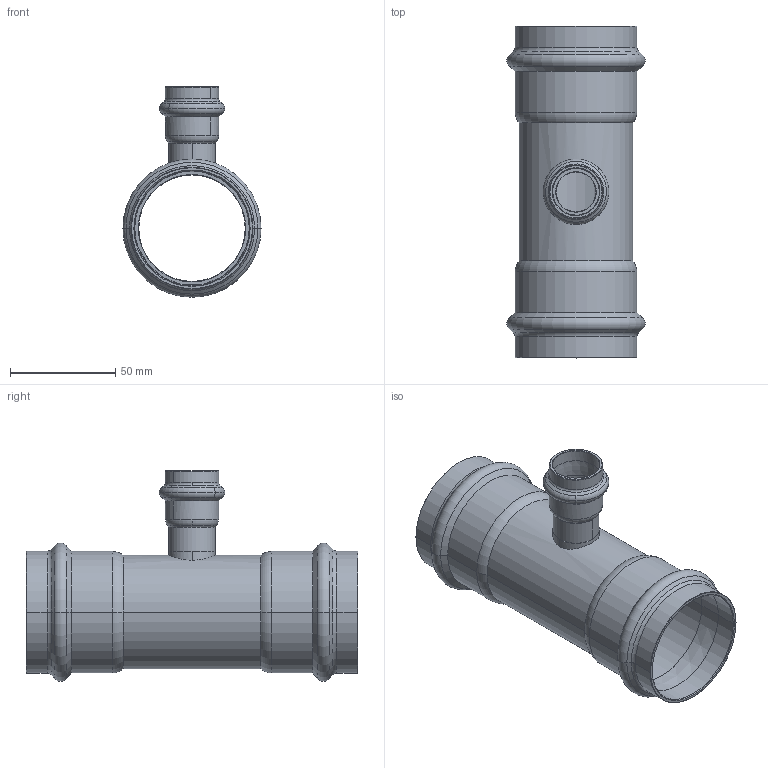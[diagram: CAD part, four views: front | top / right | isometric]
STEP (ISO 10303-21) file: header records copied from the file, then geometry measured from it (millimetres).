
FILE_DESCRIPTION(('CoCreate Modeling STEP Export'),'2;1');
FILE_NAME('8130RVW542254.stp','2013-01-31T14:45:49',(''),(''),'CoCreate Modeling STEP processor for AP214 (Solid Model)','CoCreate Modeling 17.00A 17-Jun-2010 (C) Parametric Technology GmbH','');
FILE_SCHEMA(('AUTOMOTIVE_DESIGN { 1 0 10303 214 1 1 1 1 }'));
Length unit declared in the file: millimetre
Products named in the file (1): 8130RVW542254
Bounding box: 65.68 x 157.73 x 100.08 mm (x, y, z)
Volume: 61977.3 mm3; surface area: 63254.6 mm2
Topology: 1 solids, 1 shells, 130 faces, 303 edges, 183 vertices
Faces by surface type: cylinder 42, torus 38, cone 38, plane 10, bspline 2
Entity records: 5049 total; most frequent: CARTESIAN_POINT 2572, ORIENTED_EDGE 606, DIRECTION 430, EDGE_CURVE 303, VERTEX_POINT 183, AXIS2_PLACEMENT_3D 175, EDGE_LOOP 142, FACE_OUTER_BOUND 130
